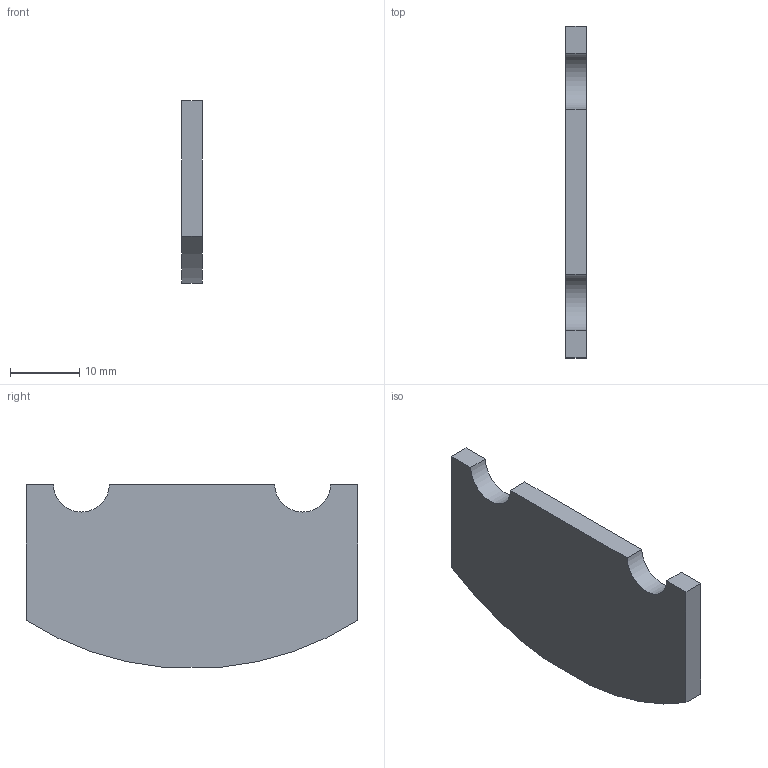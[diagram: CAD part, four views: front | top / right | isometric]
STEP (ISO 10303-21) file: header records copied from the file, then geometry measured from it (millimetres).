
FILE_DESCRIPTION(('Open CASCADE Model'),'2;1');
FILE_NAME('Open CASCADE Shape Model','2026-11-20T22:44:44',('Author'),( 'Open CASCADE'),'Open CASCADE STEP processor 7.8','Open CASCADE 7.8' ,'Unknown');
FILE_SCHEMA(('AUTOMOTIVE_DESIGN { 1 0 10303 214 1 1 1 1 }'));
Length unit declared in the file: millimetre
Products named in the file (1): Open CASCADE STEP translator 7.8 14
Bounding box: 3 x 48 x 26.4 mm (x, y, z)
Volume: 3353 mm3; surface area: 2675.6 mm2
Topology: 1 solids, 1 shells, 12 faces, 30 edges, 20 vertices
Faces by surface type: plane 8, cylinder 4
Entity records: 762 total; most frequent: DIRECTION 124, CARTESIAN_POINT 123, LINE 74, VECTOR 74, ORIENTED_EDGE 60, PCURVE 60, DEFINITIONAL_REPRESENTATION 60, EDGE_CURVE 30
